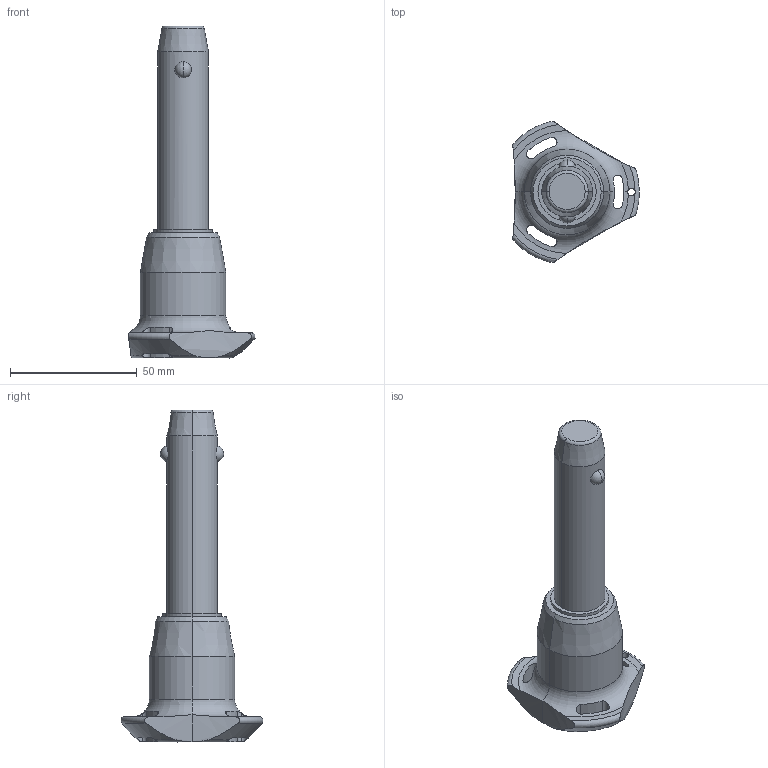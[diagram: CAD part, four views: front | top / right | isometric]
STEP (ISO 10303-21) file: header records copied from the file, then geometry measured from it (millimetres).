
FILE_DESCRIPTION (( 'STEP AP203' ), '1' );
FILE_NAME ('QR1714.M20-060-S.step', '2025-11-12T10:26:37', ( '' ), ( '' ), 'SwSTEP 2.0', 'SolidWorks 2019', '' );
FILE_SCHEMA (( 'CONFIG_CONTROL_DESIGN' ));
Length unit declared in the file: millimetre
Products named in the file (1): QR1714.M20-060-S
Bounding box: 50.04 x 56.02 x 131.2 mm (x, y, z)
Volume: 72626.5 mm3; surface area: 14737.2 mm2
Topology: 1 solids, 1 shells, 65 faces, 176 edges, 111 vertices
Faces by surface type: cylinder 30, cone 14, torus 11, sphere 6, plane 4
Entity records: 2858 total; most frequent: CARTESIAN_POINT 1179, ORIENTED_EDGE 352, DIRECTION 329, EDGE_CURVE 176, AXIS2_PLACEMENT_3D 147, VERTEX_POINT 111, CIRCLE 81, EDGE_LOOP 71
